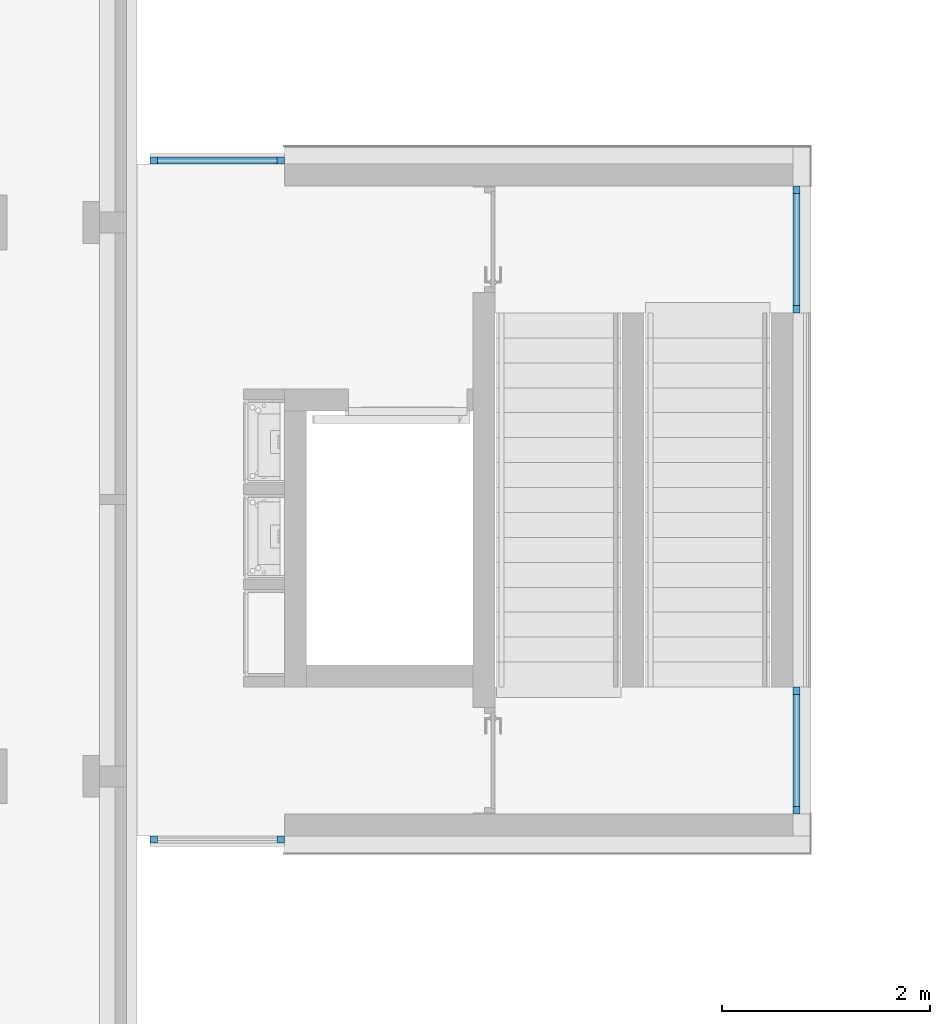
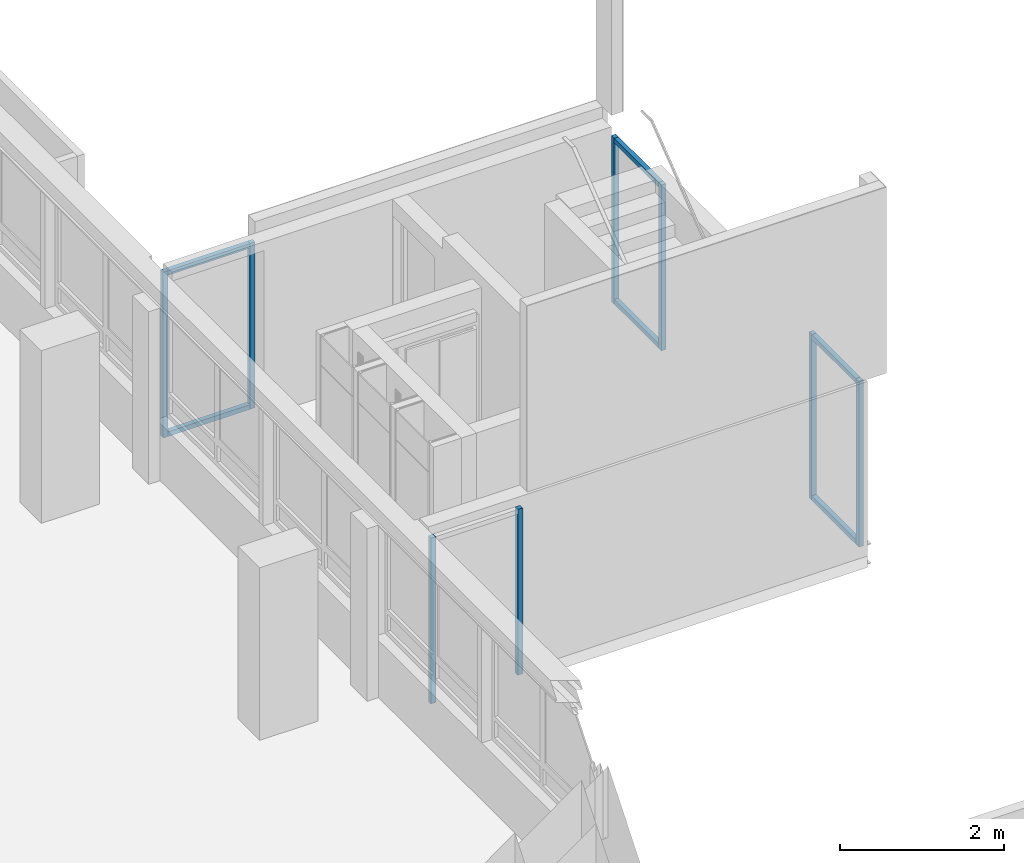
# One storey, part 2 of 22: 14 members, 4 elements without a shape of their own.
"""IFC2X3 building model written with IfcOpenShell, lengths in millimetres."""

from ifc_helpers import new_model, entity, si_unit, converted_unit, derived_unit, money_unit, direction, frame, origin_with_axes, place, context, subcontext, project, spatial, faceted_brep, source, transform, mapped, material, type_object, type_shapes, element, aggregate, save


model = new_model("IFC2X3")

# Units and contexts
model_context = context("Model", 3, precision=0.01, world=origin_with_axes(), true_north=direction((0.0, 1.0)))
body_context = subcontext(model_context, "Body", "Model", "MODEL_VIEW")
ifc_project = project(units=[si_unit("LENGTHUNIT", "METRE", prefix="MILLI"), si_unit("AREAUNIT", "SQUARE_METRE"), si_unit("VOLUMEUNIT", "CUBIC_METRE"), converted_unit("PLANEANGLEUNIT", "DEGREE", entity("IfcPlaneAngleMeasure", 0.0174532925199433), si_unit("PLANEANGLEUNIT", "RADIAN"), dimensions=[0, 0, 0, 0, 0, 0, 0]), money_unit("EUR"), converted_unit("TIMEUNIT", "Year", entity("IfcTimeMeasure", 31557600.0), si_unit("TIMEUNIT", "SECOND"), dimensions=[0, 0, 1, 0, 0, 0, 0]), si_unit("MASSUNIT", "GRAM", prefix="KILO"), si_unit("THERMODYNAMICTEMPERATUREUNIT", "DEGREE_CELSIUS"), si_unit("LUMINOUSINTENSITYUNIT", "LUMEN"), si_unit("ENERGYUNIT", "JOULE", prefix="MEGA"), derived_unit("THERMALCONDUCTANCEUNIT", [(si_unit("POWERUNIT", "WATT"), 1), (si_unit("LENGTHUNIT", "METRE"), -1), (si_unit("THERMODYNAMICTEMPERATUREUNIT", "KELVIN"), -1)]), derived_unit("SPECIFICHEATCAPACITYUNIT", [(si_unit("ENERGYUNIT", "JOULE"), 1), (si_unit("MASSUNIT", "GRAM", prefix="KILO"), -1), (si_unit("THERMODYNAMICTEMPERATUREUNIT", "KELVIN"), -1)]), derived_unit("MASSDENSITYUNIT", [(si_unit("MASSUNIT", "GRAM", prefix="KILO"), 1), (si_unit("VOLUMEUNIT", "CUBIC_METRE"), -1)])], contexts=[model_context])

# Site, building, storey
site_placement = place(None, origin_with_axes())
site = spatial("IfcSite", under=ifc_project, at=site_placement, Name="Site", CompositionType="ELEMENT")
building_placement = place(site_placement, origin_with_axes())
building = spatial("IfcBuilding", under=site, at=building_placement, Name="Naam gebouw", CompositionType="ELEMENT")
storey_placement = place(building_placement, frame((0.0, 0.0, 8690.0), z_axis=(0.0, 0.0, 1.0), x_axis=(1.0, 0.0, 0.0)))
storey = spatial("IfcBuildingStorey", under=building, at=storey_placement, Name="2e verdieping V", CompositionType="ELEMENT", Elevation=8690.0)

# Curtain wall, member
curtain_wall_type = type_object("IfcCurtainWallType", Name="Curtain Wall:21_CW_alu kozijn 070x065", PredefinedType="NOTDEFINED")
curtain_wall_1_placement = place(storey_placement, frame((0.0, 0.0, -8690.0), z_axis=(0.0, 0.0, 1.0), x_axis=(1.0, 0.0, 0.0)))
curtain_wall_1 = element("IfcCurtainWall", 1, at=curtain_wall_1_placement, inside=storey, type_object=curtain_wall_type, Name="Curtain Wall:21_CW_alu kozijn 070x065", ObjectType="Curtain Wall:21_CW_alu kozijn 070x065")
ifc_material = material(Name="RAL 7024 - Grafietgrijs")
member_type_1 = type_object("IfcMemberType", Name="Rectangular Mullion:31_alu_070x065 RAL 7024", PredefinedType="MULLION")
shared_shape_1 = source(origin_with_axes(), body_context, "Body", "Brep", [
    faceted_brep([(32.49999999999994, 1080.0, 0.0), (32.49999999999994, 1080.0, 70.0), (32.50000000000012, 0.0, 70.0), (32.50000000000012, 0.0, 0.0), (-32.50000000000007, 1080.0, 0.0), (-32.50000000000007, 1080.0, 70.0), (-32.4999999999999, 0.0, 70.0), (-32.4999999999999, 0.0, 0.0)], [[[0, 1, 2, 3]], [[0, 4, 5, 1]], [[1, 5, 6, 2]], [[3, 2, 6, 7]], [[4, 0, 3, 7]], [[5, 4, 7, 6]]]),
])
type_shapes(member_type_1, [shared_shape_1])
member_1_placement = place(curtain_wall_1_placement, frame((36612.50000004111, 34075.91242634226, 8690.0), z_axis=(0.0, 0.0, 1.0), x_axis=(-1.0, 0.0, 0.0)))
member_1 = element("IfcMember", 2, at=member_1_placement, type_object=member_type_1, material=ifc_material, Name="Rectangular Mullion:31_alu_070x065 RAL 7024", ObjectType="MULLION", context=body_context, shape_type="MappedRepresentation", body=[
    mapped(shared_shape_1, transform((0.0, 0.0, 0.0))),
])

curtain_wall_2_placement = place(storey_placement, frame((0.0, 0.0, -8690.0), z_axis=(0.0, 0.0, 1.0), x_axis=(1.0, 0.0, 0.0)))
curtain_wall_2 = element("IfcCurtainWall", 3, at=curtain_wall_2_placement, inside=storey, type_object=curtain_wall_type, Name="Curtain Wall:21_CW_alu kozijn 070x065", ObjectType="Curtain Wall:21_CW_alu kozijn 070x065")
member_2_placement = place(curtain_wall_2_placement, frame((36612.50000007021, 38895.91242629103, 8690.0), z_axis=(0.0, 0.0, 1.0), x_axis=(-1.0, 0.0, 0.0)))
member_2 = element("IfcMember", 4, at=member_2_placement, type_object=member_type_1, material=ifc_material, Name="Rectangular Mullion:31_alu_070x065 RAL 7024", ObjectType="MULLION", context=body_context, shape_type="MappedRepresentation", body=[
    mapped(shared_shape_1, transform((0.0, 0.0, 0.0))),
])

# Member
member_type_2 = type_object("IfcMemberType", Name="Rectangular Mullion:31_alu_070x065 RAL 7024", PredefinedType="MULLION")
shared_shape_2 = source(origin_with_axes(), body_context, "Body", "Brep", [
    faceted_brep([(0.0, -32.5, 2470.0), (-70.0, -32.50000000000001, 2470.0), (-70.0, -32.50000000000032, 0.0), (0.0, -32.50000000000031, 0.0), (0.0, 32.50000000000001, 2470.0), (-70.0, 32.5, 2470.0), (-70.0, 32.49999999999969, 0.0), (0.0, 32.49999999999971, 0.0)], [[[0, 1, 2, 3]], [[0, 4, 5, 1]], [[1, 5, 6, 2]], [[3, 2, 6, 7]], [[4, 0, 3, 7]], [[5, 4, 7, 6]]]),
])
type_shapes(member_type_2, [shared_shape_2])
member_3_placement = place(curtain_wall_1_placement, frame((36612.50000004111, 32925.91242626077, 8690.0), z_axis=(0.0, 0.0, 1.0), x_axis=(0.0, -1.0, 0.0)))
member_3 = element("IfcMember", 5, at=member_3_placement, type_object=member_type_2, material=ifc_material, Name="Rectangular Mullion:31_alu_070x065 RAL 7024", ObjectType="MULLION", context=body_context, shape_type="MappedRepresentation", body=[
    mapped(shared_shape_2, transform((0.0, 0.0, 0.0))),
])

# Curtain wall, member
curtain_wall_3_placement = place(storey_placement, frame((0.0, 0.0, -8690.0), z_axis=(0.0, 0.0, 1.0), x_axis=(1.0, 0.0, 0.0)))
curtain_wall_3 = element("IfcCurtainWall", 6, at=curtain_wall_3_placement, inside=storey, type_object=curtain_wall_type, Name="Curtain Wall:21_CW_alu kozijn 070x065", ObjectType="Curtain Wall:21_CW_alu kozijn 070x065")
member_type_3 = type_object("IfcMemberType", Name="Rectangular Mullion:31_alu_070x065 RAL 7024", PredefinedType="MULLION")
type_shapes(member_type_3, [shared_shape_2])
member_4_placement = place(curtain_wall_3_placement, frame((30391.00000005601, 39212.4124263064, 8690.0), z_axis=(0.0, 0.0, 1.0), x_axis=(-1.0, 0.0, 0.0)))
member_4 = element("IfcMember", 7, at=member_4_placement, type_object=member_type_3, material=ifc_material, Name="Rectangular Mullion:31_alu_070x065 RAL 7024", ObjectType="MULLION", context=body_context, shape_type="MappedRepresentation", body=[
    mapped(shared_shape_2, transform((0.0, 0.0, 0.0))),
])

# Member
member_5_placement = place(curtain_wall_2_placement, frame((36612.50000001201, 37745.91242632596, 8690.0), z_axis=(0.0, 0.0, 1.0), x_axis=(0.0, -1.0, 0.0)))
member_5 = element("IfcMember", 8, at=member_5_placement, type_object=member_type_2, material=ifc_material, Name="Rectangular Mullion:31_alu_070x065 RAL 7024", ObjectType="MULLION", context=body_context, shape_type="MappedRepresentation", body=[
    mapped(shared_shape_2, transform((0.0, 0.0, 0.0))),
])

# Curtain wall, member
curtain_wall_4_placement = place(storey_placement, frame((0.0, 0.0, -8690.0), z_axis=(0.0, 0.0, 1.0), x_axis=(1.0, 0.0, 0.0)))
curtain_wall_4 = element("IfcCurtainWall", 9, at=curtain_wall_4_placement, inside=storey, type_object=curtain_wall_type, Name="Curtain Wall:21_CW_alu kozijn 070x065", ObjectType="Curtain Wall:21_CW_alu kozijn 070x065")
member_6_placement = place(curtain_wall_4_placement, frame((30391.00000002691, 32679.41242631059, 8690.0), z_axis=(0.0, 0.0, 1.0), x_axis=(-1.0, 0.0, 0.0)))
member_6 = element("IfcMember", 10, at=member_6_placement, type_object=member_type_2, material=ifc_material, Name="Rectangular Mullion:31_alu_070x065 RAL 7024", ObjectType="MULLION", context=body_context, shape_type="MappedRepresentation", body=[
    mapped(shared_shape_2, transform((0.0, 0.0, 0.0))),
])

# Member
member_type_4 = type_object("IfcMemberType", Name="Rectangular Mullion:31_alu_070x065 RAL 7024", PredefinedType="MULLION")
shared_shape_3 = source(origin_with_axes(), body_context, "Body", "Brep", [
    faceted_brep([(0.0, 32.5, -2470.0), (-70.0, 32.50000000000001, -2470.0), (-70.0, 32.50000000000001, 0.0), (0.0, 32.5, 0.0), (0.0, -32.50000000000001, -2470.0), (-70.0, -32.5, -2470.0), (-70.0, -32.5, 0.0), (0.0, -32.50000000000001, 0.0)], [[[0, 1, 2, 3]], [[0, 4, 5, 1]], [[1, 5, 6, 2]], [[3, 2, 6, 7]], [[4, 0, 3, 7]], [[5, 4, 7, 6]]]),
])
type_shapes(member_type_4, [shared_shape_3])
member_7_placement = place(curtain_wall_1_placement, frame((36612.50000001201, 34145.91242634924, 11160.0), z_axis=(0.0, 0.0, 1.0), x_axis=(0.0, 1.0, 0.0)))
member_7 = element("IfcMember", 11, at=member_7_placement, type_object=member_type_4, material=ifc_material, Name="Rectangular Mullion:31_alu_070x065 RAL 7024", ObjectType="MULLION", context=body_context, shape_type="MappedRepresentation", body=[
    mapped(shared_shape_3, transform((0.0, 0.0, 0.0))),
])

member_type_5 = type_object("IfcMemberType", Name="Rectangular Mullion:31_alu_070x065 RAL 7024", PredefinedType="MULLION")
type_shapes(member_type_5, [shared_shape_3])
member_8_placement = place(curtain_wall_3_placement, frame((31685.01028266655, 39212.4124263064, 11160.0), z_axis=(0.0, 0.0, 1.0), x_axis=(1.0, 0.0, 0.0)))
member_8 = element("IfcMember", 12, at=member_8_placement, type_object=member_type_5, material=ifc_material, Name="Rectangular Mullion:31_alu_070x065 RAL 7024", ObjectType="MULLION", context=body_context, shape_type="MappedRepresentation", body=[
    mapped(shared_shape_3, transform((0.0, 0.0, 0.0))),
])

member_9_placement = place(curtain_wall_2_placement, frame((36612.50000004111, 38965.91242629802, 11160.0), z_axis=(0.0, 0.0, 1.0), x_axis=(0.0, 1.0, 0.0)))
member_9 = element("IfcMember", 13, at=member_9_placement, type_object=member_type_4, material=ifc_material, Name="Rectangular Mullion:31_alu_070x065 RAL 7024", ObjectType="MULLION", context=body_context, shape_type="MappedRepresentation", body=[
    mapped(shared_shape_3, transform((0.0, 0.0, 0.0))),
])

member_10_placement = place(curtain_wall_4_placement, frame((31685.01028266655, 32679.41242631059, 11160.0), z_axis=(0.0, 0.0, 1.0), x_axis=(1.0, 0.0, 0.0)))
member_10 = element("IfcMember", 14, at=member_10_placement, type_object=member_type_4, material=ifc_material, Name="Rectangular Mullion:31_alu_070x065 RAL 7024", ObjectType="MULLION", context=body_context, shape_type="MappedRepresentation", body=[
    mapped(shared_shape_3, transform((0.0, 0.0, 0.0))),
])

aggregate(curtain_wall_4, [member_6, member_10])

member_type_6 = type_object("IfcMemberType", Name="Rectangular Mullion:31_alu_070x065 RAL 7024", PredefinedType="MULLION")
shared_shape_4 = source(origin_with_axes(), body_context, "Body", "Brep", [
    faceted_brep([(32.50000000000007, -1080.0, 0.0), (32.50000000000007, -1080.0, -70.0), (32.4999999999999, 0.0, -70.0), (32.4999999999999, 0.0, 0.0), (-32.49999999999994, -1080.0, 0.0), (-32.49999999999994, -1080.0, -70.0), (-32.50000000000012, 0.0, -70.0), (-32.50000000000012, 0.0, 0.0)], [[[0, 1, 2, 3]], [[0, 4, 5, 1]], [[1, 5, 6, 2]], [[3, 2, 6, 7]], [[4, 0, 3, 7]], [[5, 4, 7, 6]]]),
])
type_shapes(member_type_6, [shared_shape_4])
member_11_placement = place(curtain_wall_1_placement, frame((36612.50000004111, 32995.91242626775, 11160.0), z_axis=(0.0, 0.0, 1.0), x_axis=(-1.0, 0.0, 0.0)))
member_11 = element("IfcMember", 15, at=member_11_placement, type_object=member_type_6, material=ifc_material, Name="Rectangular Mullion:31_alu_070x065 RAL 7024", ObjectType="MULLION", context=body_context, shape_type="MappedRepresentation", body=[
    mapped(shared_shape_4, transform((0.0, 0.0, 0.0))),
])

aggregate(curtain_wall_1, [member_1, member_3, member_7, member_11])

member_12_placement = place(curtain_wall_2_placement, frame((36612.50000001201, 37815.91242633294, 11160.0), z_axis=(0.0, 0.0, 1.0), x_axis=(-1.0, 0.0, 0.0)))
member_12 = element("IfcMember", 16, at=member_12_placement, type_object=member_type_6, material=ifc_material, Name="Rectangular Mullion:31_alu_070x065 RAL 7024", ObjectType="MULLION", context=body_context, shape_type="MappedRepresentation", body=[
    mapped(shared_shape_4, transform((0.0, 0.0, 0.0))),
])

aggregate(curtain_wall_2, [member_2, member_5, member_12, member_9])

member_type_7 = type_object("IfcMemberType", Name="Rectangular Mullion:31_alu_070x065 RAL 7024", PredefinedType="MULLION")
shared_shape_5 = source(origin_with_axes(), body_context, "Body", "Brep", [
    faceted_brep([(32.49999999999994, 1154.0, 0.0), (32.49999999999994, 1154.0, 70.0), (32.50000000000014, -2.993161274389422e-10, 70.0), (32.50000000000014, -2.993161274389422e-10, 0.0), (-32.50000000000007, 1154.0, 0.0), (-32.50000000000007, 1154.0, 70.0), (-32.49999999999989, -2.993161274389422e-10, 70.0), (-32.49999999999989, -2.993161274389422e-10, 0.0)], [[[0, 1, 2, 3]], [[0, 4, 5, 1]], [[1, 5, 6, 2]], [[3, 2, 6, 7]], [[4, 0, 3, 7]], [[5, 4, 7, 6]]]),
])
type_shapes(member_type_7, [shared_shape_5])
member_13_placement = place(curtain_wall_3_placement, frame((31615.01028265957, 39212.4124263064, 8690.0), z_axis=(0.0, 0.0, 1.0), x_axis=(0.0, 1.0, 0.0)))
member_13 = element("IfcMember", 17, at=member_13_placement, type_object=member_type_7, material=ifc_material, Name="Rectangular Mullion:31_alu_070x065 RAL 7024", ObjectType="MULLION", context=body_context, shape_type="MappedRepresentation", body=[
    mapped(shared_shape_5, transform((0.0, 0.0, 0.0))),
])

member_type_8 = type_object("IfcMemberType", Name="Rectangular Mullion:31_alu_070x065 RAL 7024", PredefinedType="MULLION")
shared_shape_6 = source(origin_with_axes(), body_context, "Body", "Brep", [
    faceted_brep([(32.50000000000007, -1154.0, 0.0), (32.50000000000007, -1154.0, -70.0), (32.49999999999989, 2.993161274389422e-10, -70.0), (32.49999999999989, 2.993161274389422e-10, 0.0), (-32.49999999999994, -1154.0, 0.0), (-32.49999999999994, -1154.0, -70.0), (-32.50000000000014, 2.993161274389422e-10, -70.0), (-32.50000000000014, 2.993161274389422e-10, 0.0)], [[[0, 1, 2, 3]], [[0, 4, 5, 1]], [[1, 5, 6, 2]], [[3, 2, 6, 7]], [[4, 0, 3, 7]], [[5, 4, 7, 6]]]),
])
type_shapes(member_type_8, [shared_shape_6])
member_14_placement = place(curtain_wall_3_placement, frame((30461.00000003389, 39212.41242624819, 11160.0), z_axis=(0.0, 0.0, 1.0), x_axis=(0.0, 1.0, 0.0)))
member_14 = element("IfcMember", 18, at=member_14_placement, type_object=member_type_8, material=ifc_material, Name="Rectangular Mullion:31_alu_070x065 RAL 7024", ObjectType="MULLION", context=body_context, shape_type="MappedRepresentation", body=[
    mapped(shared_shape_6, transform((0.0, 0.0, 0.0))),
])

aggregate(curtain_wall_3, [member_13, member_14, member_4, member_8])

save(model, "model.ifc")
